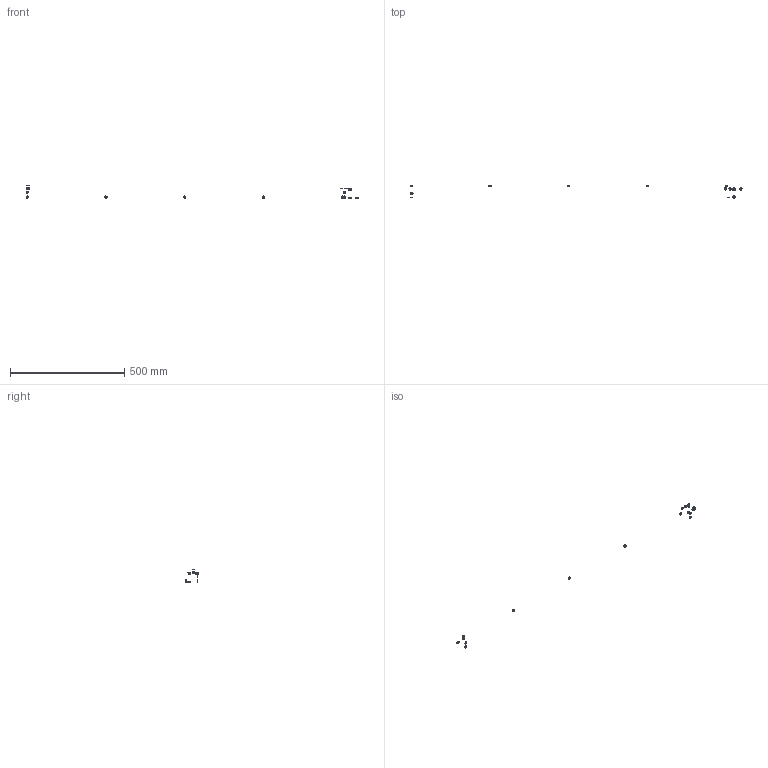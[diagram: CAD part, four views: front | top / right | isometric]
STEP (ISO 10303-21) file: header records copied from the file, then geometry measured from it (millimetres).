
FILE_DESCRIPTION(/* description */ (''),/* implementation_level */ '2;1');
FILE_NAME(/* name */ 'X-CBF8~1',/* time_stamp */ '2014-02-14T19:47:17+01:00',/* author */ (''),/* organization */ (''),/* preprocessor_version */ 'ST-DEVELOPER v14',/* originating_system */ '',/* authorisation */ '');
FILE_SCHEMA (('AUTOMOTIVE_DESIGN'));
Length unit declared in the file: millimetre
Products named in the file (2): Document; washer DIN125-like, form A, M5
Assembly tree (25 placements, depth 2):
  Document
    washer DIN125-like, form A, M5  x25
Bounding box: 1454 x 55 x 55 mm (x, y, z)
Surface area: 6767.2 mm2 (no closed solid volume)
Topology: 0 solids, 252 shells, 252 faces, 840 edges, 840 vertices
Faces by surface type: bspline 168, plane 84
Entity records: 9133 total; most frequent: CARTESIAN_POINT 4600, B_SPLINE_CURVE_WITH_KNOTS 432, ORIENTED_EDGE 360, PCURVE 360, DEFINITIONAL_REPRESENTATION 360, SURFACE_CURVE 360, EDGE_CURVE 360, VERTEX_POINT 360
